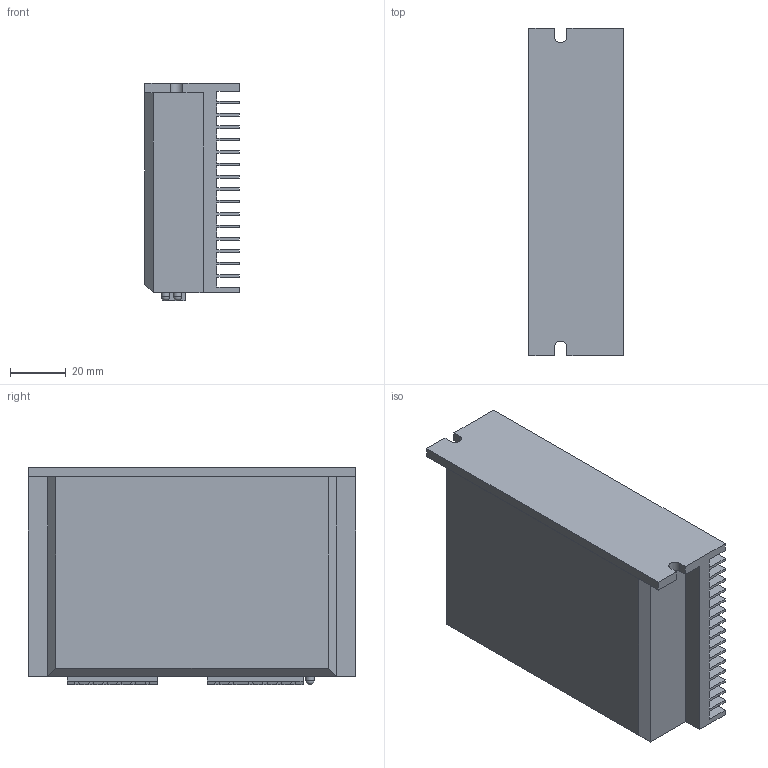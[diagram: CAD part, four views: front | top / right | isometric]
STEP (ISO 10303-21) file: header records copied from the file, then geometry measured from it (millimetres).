
FILE_DESCRIPTION(/* description */ ('Unknown','CAx-IF Rec.Pracs.---Representation and Presentation of Product Manufacturing Information (PMI)---4.0---2014-10-13','CAx-IF Rec.Pracs.---3D Tessellated Geometry---0.4---2014-09-14','2;1'),/* implementation_level */ '2;1');
FILE_NAME(/* name */ 'DST-542-lepteto-hajtas',/* time_stamp */ '2019-12-05T15:36:21+01:00',/* author */ ('Unknown'),/* organization */ ('Unknown'),/* preprocessor_version */ 'ST-DEVELOPER v16.7',/* originating_system */ 'DEX',/* authorisation */ $);
FILE_SCHEMA (('AP242_MANAGED_MODEL_BASED_3D_ENGINEERING_MIM_LF { 1 0 10303 442 1 1 4 }'));
Length unit declared in the file: millimetre
Products named in the file (1): DST-542-lepteto-hajtas
Bounding box: 34 x 118 x 78.5 mm (x, y, z)
Volume: 228184.4 mm3; surface area: 80165.8 mm2
Topology: 2 solids, 2 shells, 339 faces, 887 edges, 566 vertices
Faces by surface type: plane 309, cylinder 16, cone 12, sphere 2
Full cylindrical faces by diameter (mm): 3 x2
Entity records: 10150 total; most frequent: CARTESIAN_POINT 1785, ORIENTED_EDGE 1762, DIRECTION 1629, EDGE_CURVE 881, LINE 813, VECTOR 813, VERTEX_POINT 564, AXIS2_PLACEMENT_3D 408
